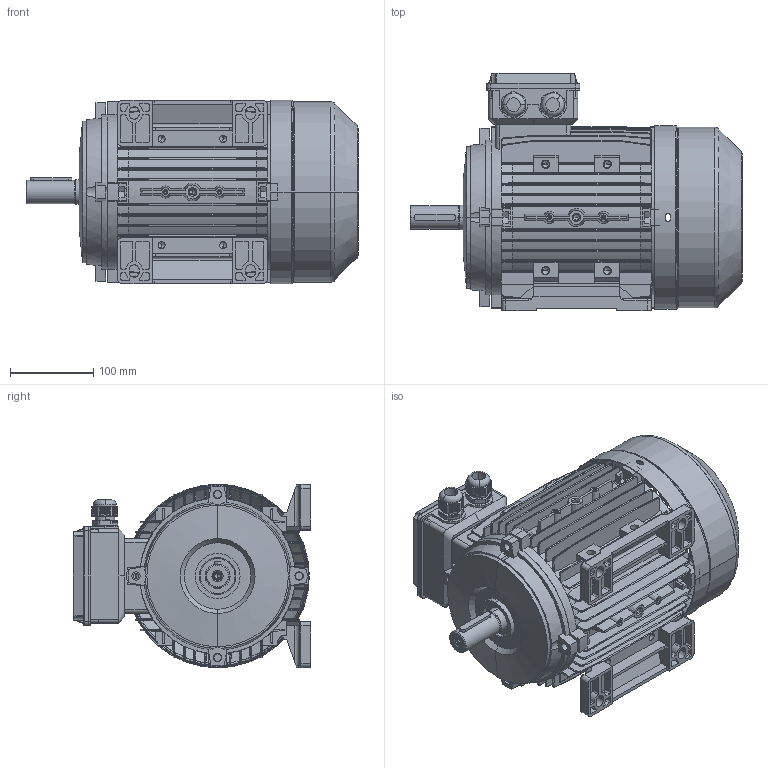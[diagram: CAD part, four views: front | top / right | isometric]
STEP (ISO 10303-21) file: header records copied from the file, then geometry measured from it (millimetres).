
FILE_DESCRIPTION (( 'STEP AP203' ), '1' );
FILE_NAME ('ME112M-4 B3.STEP', '2014-08-18T11:22:16', ( '' ), ( '' ), 'SwSTEP 2.0', 'SolidWorks 2010', '' );
FILE_SCHEMA (( 'CONFIG_CONTROL_DESIGN' ));
Length unit declared in the file: millimetre
Products named in the file (9): MS132諉盄碟釱_2Holes; M25 cable gland; ME112M-4 B3; M112儂褲; M112瑞欶_105; MS132諉盄碟裔; M112-Shaft drive end; M112傷裔B3_Drive; M112菁褐
Assembly tree (10 placements, depth 2):
  ME112M-4 B3
    M112菁褐  x2
    M112-Shaft drive end
    M112瑞欶_105
    M112傷裔B3_Drive
    M25 cable gland  x2
    MS132諉盄碟裔
    M112儂褲
    MS132諉盄碟釱_2Holes
Bounding box: 399 x 285.5 x 220.5 mm (x, y, z)
Volume: 1741449.5 mm3; surface area: 1033620 mm2
Topology: 12 solids, 12 shells, 3596 faces, 9662 edges, 6087 vertices
Faces by surface type: plane 1740, cylinder 999, bspline 452, cone 223, sphere 102, torus 80
Entity records: 151475 total; most frequent: CARTESIAN_POINT 75869, ORIENTED_EDGE 16360, DIRECTION 14139, EDGE_CURVE 8180, VERTEX_POINT 5167, AXIS2_PLACEMENT_3D 4729, LINE 4681, VECTOR 4681
